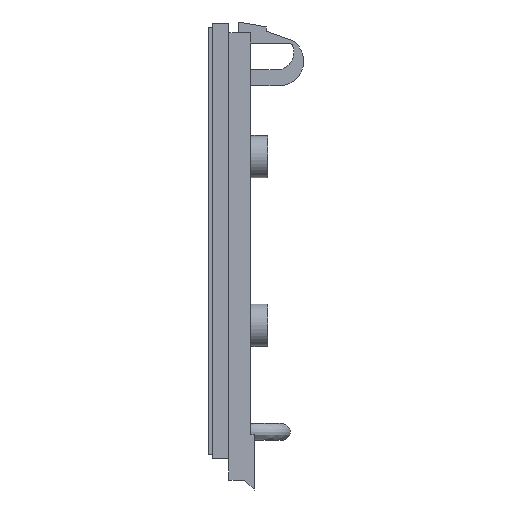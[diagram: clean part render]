
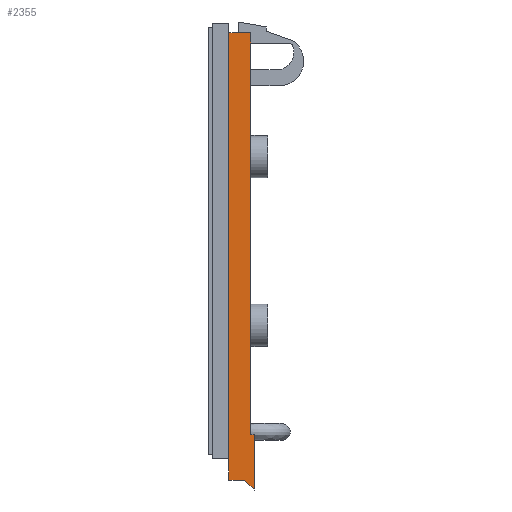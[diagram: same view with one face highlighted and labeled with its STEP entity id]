
A CAD part, left-side view. The second image highlights one B-rep face of the part: STEP entity #2355.
In plain terms, the highlighted planar face has unit normal (-1, 0, 0).
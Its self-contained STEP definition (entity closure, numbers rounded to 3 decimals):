
#17 = VECTOR ( 'NONE', #901, 1000. ) ;
#35 = VERTEX_POINT ( 'NONE', #1628 ) ;
#206 = LINE ( 'NONE', #564, #514 ) ;
#207 = VECTOR ( 'NONE', #1428, 1000. ) ;
#210 = LINE ( 'NONE', #1626, #207 ) ;
#286 = LINE ( 'NONE', #1666, #17 ) ;
#323 = VECTOR ( 'NONE', #857, 1000. ) ;
#347 = EDGE_CURVE ( 'Arista1', #1862, #1266, #351, .T. ) ;
#351 = LINE ( 'NONE', #1608, #323 ) ;
#370 = LINE ( 'NONE', #1032, #1997 ) ;
#426 = EDGE_CURVE ( 'NONE', #1862, #1276, #210, .T. ) ;
#514 = VECTOR ( 'NONE', #1515, 1000. ) ;
#531 = FACE_OUTER_BOUND ( 'NONE', #1625, .T. ) ;
#564 = CARTESIAN_POINT ( 'NONE',  ( -26.73, -0.25, -17.6 ) ) ;
#588 = EDGE_CURVE ( 'NONE', #1276, #2391, #286, .T. ) ;
#750 = EDGE_CURVE ( 'NONE', #964, #1641, #2364, .T. ) ;
#772 = ORIENTED_EDGE ( 'NONE', *, *, #1144, .T. ) ;
#800 = ORIENTED_EDGE ( 'NONE', *, *, #347, .T. ) ;
#807 = ORIENTED_EDGE ( 'NONE', *, *, #2281, .T. ) ;
#814 = VECTOR ( 'NONE', #1010, 1000. ) ;
#823 = CARTESIAN_POINT ( 'NONE',  ( -26.73, -0.25, -13.7 ) ) ;
#832 = LINE ( 'NONE', #823, #814 ) ;
#857 = DIRECTION ( 'NONE',  ( 0., 0., -1. ) ) ;
#860 = ORIENTED_EDGE ( 'NONE', *, *, #1644, .T. ) ;
#901 = DIRECTION ( 'NONE',  ( 0., 0., -1. ) ) ;
#907 = ORIENTED_EDGE ( 'NONE', *, *, #1397, .T. ) ;
#918 = CARTESIAN_POINT ( 'NONE',  ( -26.73, 0.45, -16.9 ) ) ;
#921 = ORIENTED_EDGE ( 'NONE', *, *, #426, .F. ) ;
#964 = VERTEX_POINT ( 'NONE', #1756 ) ;
#1010 = DIRECTION ( 'NONE',  ( 0., 1., 0. ) ) ;
#1030 = CARTESIAN_POINT ( 'NONE',  ( -26.73, 1.55, 14.7 ) ) ;
#1032 = CARTESIAN_POINT ( 'NONE',  ( -26.73, 1.55, -13.7 ) ) ;
#1036 = DIRECTION ( 'NONE',  ( 0., 0., 1. ) ) ;
#1093 = VERTEX_POINT ( 'NONE', #1960 ) ;
#1144 = EDGE_CURVE ( 'NONE', #1266, #964, #370, .T. ) ;
#1183 = ORIENTED_EDGE ( 'NONE', *, *, #588, .F. ) ;
#1234 = ORIENTED_EDGE ( 'NONE', *, *, #750, .T. ) ;
#1266 = VERTEX_POINT ( 'NONE', #1653 ) ;
#1276 = VERTEX_POINT ( 'NONE', #2219 ) ;
#1282 = VECTOR ( 'NONE', #1696, 1000. ) ;
#1298 = CARTESIAN_POINT ( 'NONE',  ( -26.73, 0.45, -16.9 ) ) ;
#1397 = EDGE_CURVE ( 'NONE', #1093, #35, #206, .T. ) ;
#1409 = DIRECTION ( 'NONE',  ( 0., 0., -1. ) ) ;
#1428 = DIRECTION ( 'NONE',  ( 0., -1., 0. ) ) ;
#1497 = CARTESIAN_POINT ( 'NONE',  ( -26.73, 1.55, -16.9 ) ) ;
#1515 = DIRECTION ( 'NONE',  ( 0., 0., 1. ) ) ;
#1608 = CARTESIAN_POINT ( 'NONE',  ( -26.73, 1.55, 14.7 ) ) ;
#1618 = CARTESIAN_POINT ( 'NONE',  ( -26.73, 0., -13.7 ) ) ;
#1625 = EDGE_LOOP ( 'NONE', ( #800, #772, #1234, #860, #907, #807, #1183, #921 ) ) ;
#1626 = CARTESIAN_POINT ( 'NONE',  ( -26.73, 1.55, 14.7 ) ) ;
#1628 = CARTESIAN_POINT ( 'NONE',  ( -26.73, -0.25, -13.7 ) ) ;
#1633 = CARTESIAN_POINT ( 'NONE',  ( -26.73, 1.55, 14.7 ) ) ;
#1641 = VERTEX_POINT ( 'NONE', #918 ) ;
#1644 = EDGE_CURVE ( 'NONE', #1641, #1093, #2315, .T. ) ;
#1653 = CARTESIAN_POINT ( 'NONE',  ( -26.73, 1.55, -15.4 ) ) ;
#1666 = CARTESIAN_POINT ( 'NONE',  ( -26.73, 0., 14.7 ) ) ;
#1696 = DIRECTION ( 'NONE',  ( 0., -1., 0. ) ) ;
#1756 = CARTESIAN_POINT ( 'NONE',  ( -26.73, 1.55, -16.9 ) ) ;
#1824 = AXIS2_PLACEMENT_3D ( 'NONE', #1030, #2175, #1036 ) ;
#1862 = VERTEX_POINT ( 'NONE', #1633 ) ;
#1960 = CARTESIAN_POINT ( 'NONE',  ( -26.73, -0.25, -17.6 ) ) ;
#1984 = PLANE ( 'NONE',  #1824 ) ;
#1997 = VECTOR ( 'NONE', #1409, 1000. ) ;
#2067 = DIRECTION ( 'NONE',  ( 0., -0.707, -0.707 ) ) ;
#2175 = DIRECTION ( 'NONE',  ( -1., 0., 0. ) ) ;
#2219 = CARTESIAN_POINT ( 'NONE',  ( -26.73, 0., 14.7 ) ) ;
#2281 = EDGE_CURVE ( 'NONE', #35, #2391, #832, .T. ) ;
#2315 = LINE ( 'NONE', #1298, #2331 ) ;
#2331 = VECTOR ( 'NONE', #2067, 1000. ) ;
#2355 = ADVANCED_FACE ( 'Cara7', ( #531 ), #1984, .T. ) ;
#2364 = LINE ( 'NONE', #1497, #1282 ) ;
#2391 = VERTEX_POINT ( 'NONE', #1618 ) ;
